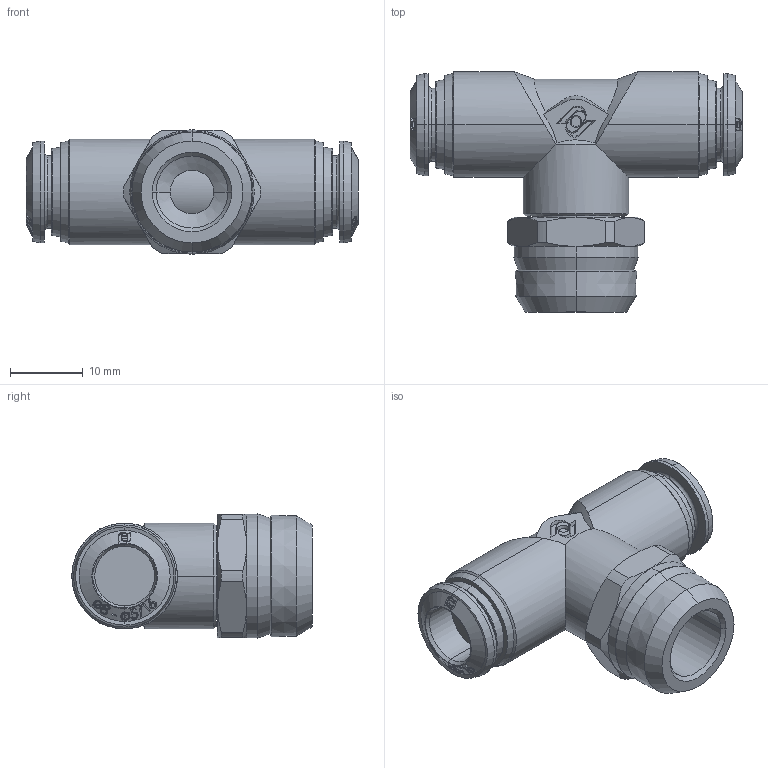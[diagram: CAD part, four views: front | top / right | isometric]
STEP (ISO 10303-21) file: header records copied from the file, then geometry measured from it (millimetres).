
FILE_DESCRIPTION (( 'STEP AP214' ), '1' );
FILE_NAME ('5021100008.step', '2012-10-01T16:48:22', ( '' ), ( '' ), 'SwSTEP 2.0', 'SolidWorks 2012', '' );
FILE_SCHEMA (( 'AUTOMOTIVE_DESIGN' ));
Length unit declared in the file: millimetre
Products named in the file (1): 5021100008
Bounding box: 45.6 x 33 x 17.1 mm (x, y, z)
Volume: 8948.2 mm3; surface area: 5714.5 mm2
Topology: 3 solids, 3 shells, 487 faces, 1230 edges, 798 vertices
Faces by surface type: bspline 226, cone 128, plane 55, cylinder 52, torus 26
Entity records: 26920 total; most frequent: CARTESIAN_POINT 17182, ORIENTED_EDGE 2460, EDGE_CURVE 1230, DIRECTION 1210, VERTEX_POINT 798, B_SPLINE_CURVE_WITH_KNOTS 784, EDGE_LOOP 540, AXIS2_PLACEMENT_3D 510
